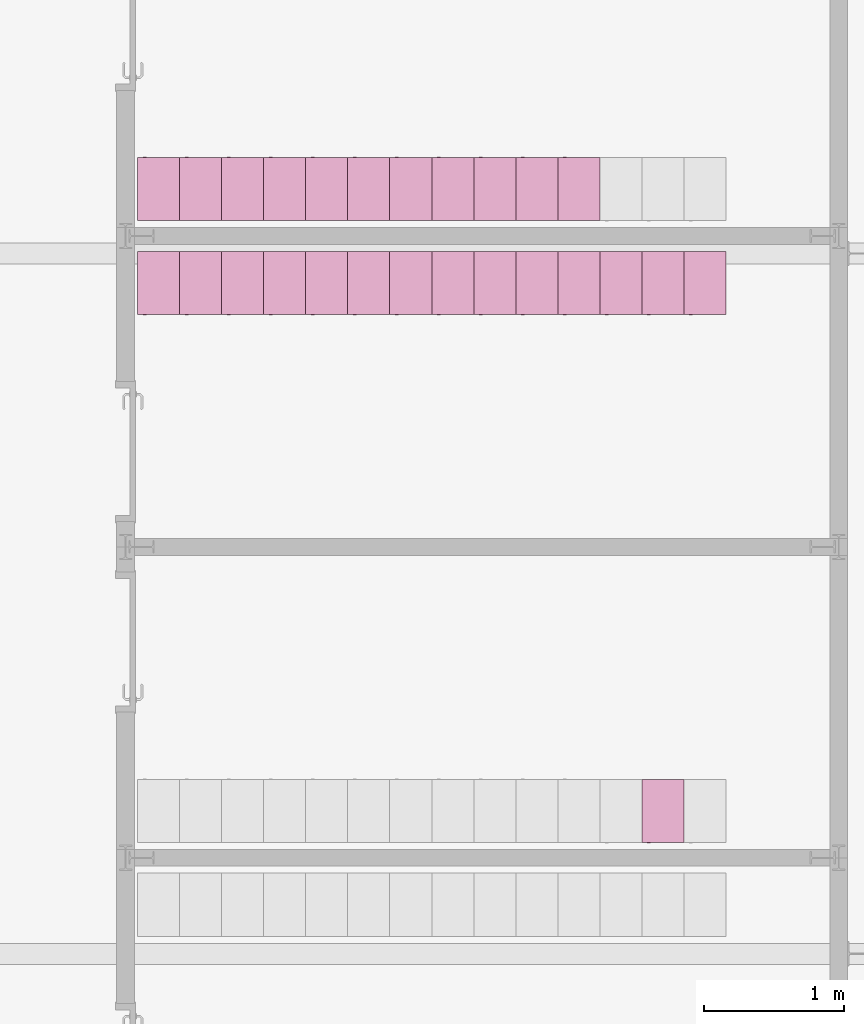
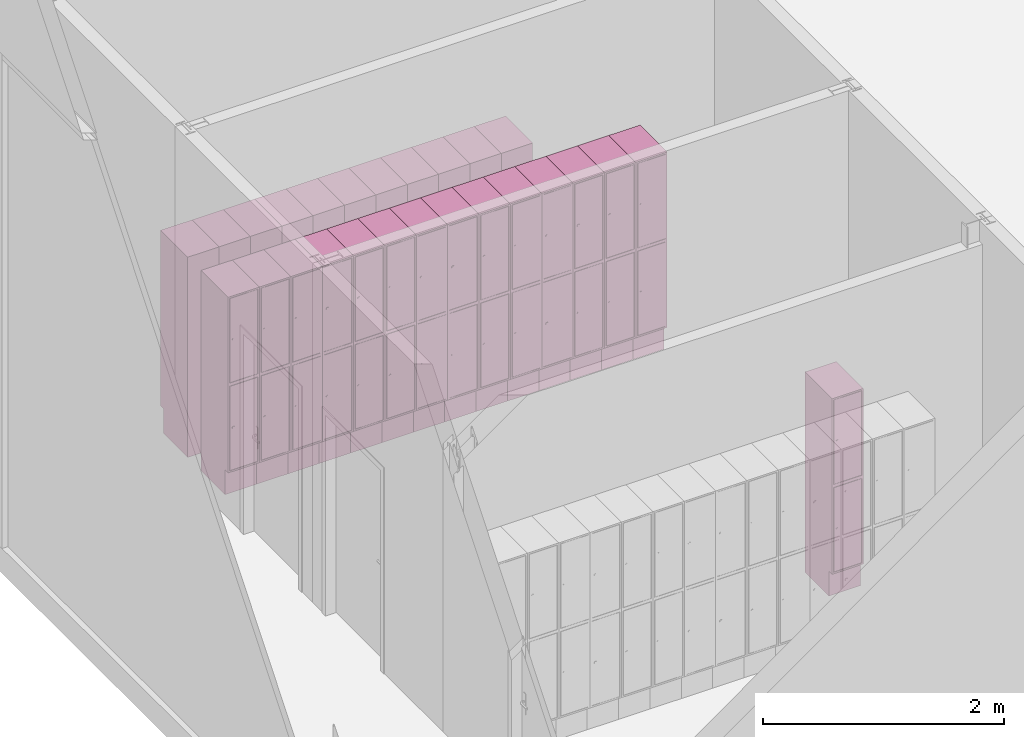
# One storey, part 120 of 137: 26 furnishings.
"""IFC2X3 building model written with IfcOpenShell, lengths in centimetres."""

from ifc_helpers import new_model, entity, si_unit, converted_unit, derived_unit, direction, frame, origin, place, context, subcontext, project, spatial, faceted_brep, source, transform, mapped, material, material_list, type_object, type_shapes, element, save


model = new_model("IFC2X3")

# Units and contexts
model_context = context("Model", 3, precision=0.001, world=origin(), true_north=direction((6.12303176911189e-17, 1.0)))
body_context = subcontext(model_context, "Body", "Model", "MODEL_VIEW")
ifc_project = project(units=[si_unit("LENGTHUNIT", "METRE", prefix="CENTI"), si_unit("AREAUNIT", "SQUARE_METRE"), si_unit("VOLUMEUNIT", "CUBIC_METRE"), converted_unit("PLANEANGLEUNIT", "DEGREE", entity("IfcRatioMeasure", 0.0174532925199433), si_unit("PLANEANGLEUNIT", "RADIAN"), dimensions=[0, 0, 0, 0, 0, 0, 0]), si_unit("MASSUNIT", "GRAM", prefix="KILO"), si_unit("TIMEUNIT", "SECOND"), si_unit("FREQUENCYUNIT", "HERTZ"), si_unit("THERMODYNAMICTEMPERATUREUNIT", "DEGREE_CELSIUS"), derived_unit("THERMALTRANSMITTANCEUNIT", [(si_unit("MASSUNIT", "GRAM", prefix="KILO"), 1), (si_unit("THERMODYNAMICTEMPERATUREUNIT", "KELVIN"), -1), (si_unit("TIMEUNIT", "SECOND"), -3)]), derived_unit("VOLUMETRICFLOWRATEUNIT", [(si_unit("LENGTHUNIT", "METRE"), 3), (si_unit("TIMEUNIT", "SECOND"), -1)]), si_unit("ELECTRICCURRENTUNIT", "AMPERE"), si_unit("ELECTRICVOLTAGEUNIT", "VOLT"), si_unit("POWERUNIT", "WATT"), si_unit("FORCEUNIT", "NEWTON", prefix="KILO"), si_unit("ILLUMINANCEUNIT", "LUX"), si_unit("LUMINOUSFLUXUNIT", "LUMEN"), si_unit("LUMINOUSINTENSITYUNIT", "CANDELA"), derived_unit("USERDEFINED", [(si_unit("MASSUNIT", "GRAM", prefix="KILO"), -1), (si_unit("LENGTHUNIT", "METRE"), -2), (si_unit("TIMEUNIT", "SECOND"), 3), (si_unit("LUMINOUSFLUXUNIT", "LUMEN"), 1)]), derived_unit("LINEARVELOCITYUNIT", [(si_unit("LENGTHUNIT", "METRE"), 1), (si_unit("TIMEUNIT", "SECOND"), -1)]), si_unit("PRESSUREUNIT", "PASCAL"), derived_unit("USERDEFINED", [(si_unit("LENGTHUNIT", "METRE"), -2), (si_unit("MASSUNIT", "GRAM", prefix="KILO"), 1), (si_unit("TIMEUNIT", "SECOND"), -2)])], contexts=[model_context])

# Site, building, storey, space
site_placement = place(None, frame((8.62739174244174, -249.285249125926, 0.0)))
site = spatial("IfcSite", under=ifc_project, at=site_placement, Name="Default", CompositionType="ELEMENT")
building_placement = place(site_placement, origin())
building = spatial("IfcBuilding", under=site, at=building_placement, CompositionType="ELEMENT")
storey_placement = place(building_placement, origin())
storey = spatial("IfcBuildingStorey", under=building, at=storey_placement, Name="RDC", CompositionType="ELEMENT", Elevation=-8.82465566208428e-11)
space_1_placement = place(storey_placement, origin())
space_1 = spatial("IfcSpace", under=storey, at=space_1_placement, Name="080", CompositionType="ELEMENT", InteriorOrExteriorSpace="INTERNAL")

# Furnishings
ifc_material_1 = material(Name="Peinture - Grise")
ifc_material_2 = material(Name="Peinture - Blanc")
ifc_material_list_1 = material_list([ifc_material_1, ifc_material_2])
ifc_material_list_2 = material_list([ifc_material_1, ifc_material_2])
furniture_type_1 = type_object("IfcFurnitureType", Name="Casiers 1x2", AssemblyPlace="NOTDEFINED", material=ifc_material_list_2)
shared_shape_1 = source(origin(), body_context, "Body", "Brep", [
    faceted_brep([(4.63888665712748, 0.299999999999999, 70.5824072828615), (4.96241046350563, 0.299999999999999, 70.6250000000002), (5.28593426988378, 0.299999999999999, 70.5824072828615), (5.58741046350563, 0.299999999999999, 70.4575317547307), (5.84629393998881, 0.299999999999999, 70.2588834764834), (6.04494221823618, 0.299999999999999, 70.0), (6.16981774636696, 0.299999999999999, 69.6985238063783), (6.21241046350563, 0.299999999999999, 69.3750000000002), (6.16981774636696, 0.299999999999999, 69.051476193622), (6.04494221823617, 0.299999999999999, 68.7500000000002), (5.84629393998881, 0.299999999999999, 68.491116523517), (5.58741046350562, 0.299999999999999, 68.2924682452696), (5.28593426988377, 0.299999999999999, 68.1675927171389), (4.96241046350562, 0.299999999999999, 68.1250000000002), (4.63888665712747, 0.299999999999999, 68.1675927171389), (4.33741046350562, 0.299999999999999, 68.2924682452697), (4.07852698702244, 0.299999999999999, 68.491116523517), (3.87987870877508, 0.299999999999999, 68.7500000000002), (3.75500318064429, 0.299999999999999, 69.0514761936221), (3.71241046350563, 0.299999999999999, 69.3750000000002), (3.75500318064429, 0.299999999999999, 69.6985238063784), (3.87987870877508, 0.299999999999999, 70.0), (4.07852698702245, 0.299999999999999, 70.2588834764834), (4.33741046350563, 0.299999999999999, 70.4575317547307), (5.28593426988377, 0.0, 68.1675927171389), (5.58741046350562, 0.0, 68.2924682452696), (5.84629393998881, 0.0, 68.491116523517), (6.04494221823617, 0.0, 68.7500000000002), (6.16981774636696, 0.0, 69.051476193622), (6.21241046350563, 0.0, 69.3750000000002), (6.16981774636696, 0.0, 69.6985238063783), (6.04494221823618, 0.0, 70.0), (5.84629393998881, 0.0, 70.2588834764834), (5.58741046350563, 0.0, 70.4575317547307), (5.28593426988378, 0.0, 70.5824072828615), (4.96241046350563, 0.0, 70.6250000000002), (4.63888665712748, 0.0, 70.5824072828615), (4.33741046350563, 0.0, 70.4575317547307), (4.07852698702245, 0.0, 70.2588834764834), (3.87987870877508, 0.0, 70.0), (3.75500318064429, 0.0, 69.6985238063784), (3.71241046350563, 0.0, 69.3750000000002), (3.75500318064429, 0.0, 69.0514761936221), (3.87987870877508, 0.0, 68.7500000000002), (4.07852698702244, 0.0, 68.491116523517), (4.33741046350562, 0.0, 68.2924682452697), (4.63888665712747, 0.0, 68.1675927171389), (4.96241046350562, 0.0, 68.1250000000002)], [[[0, 1, 2, 3, 4, 5, 6, 7, 8, 9, 10, 11, 12, 13, 14, 15, 16, 17, 18, 19, 20, 21, 22, 23]], [[24, 25, 26, 27, 28, 29, 30, 31, 32, 33, 34, 35, 36, 37, 38, 39, 40, 41, 42, 43, 44, 45, 46, 47]], [[18, 42, 41, 19]], [[17, 43, 42, 18]], [[45, 44, 16, 15]], [[17, 16, 44, 43]], [[46, 45, 15, 14]], [[47, 46, 14, 13]], [[12, 24, 47, 13]], [[11, 25, 24, 12]], [[27, 26, 10, 9]], [[11, 10, 26, 25]], [[28, 27, 9, 8]], [[29, 28, 8, 7]], [[6, 30, 29, 7]], [[5, 31, 30, 6]], [[33, 32, 4, 3]], [[5, 4, 32, 31]], [[34, 33, 3, 2]], [[35, 34, 2, 1]], [[0, 36, 35, 1]], [[23, 37, 36, 0]], [[39, 38, 22, 21]], [[23, 22, 38, 37]], [[40, 39, 21, 20]], [[41, 40, 20, 19]]]),
    faceted_brep([(5.58741046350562, 0.0, 157.042468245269), (5.84629393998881, 0.0, 157.241116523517), (6.04494221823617, 0.0, 157.5), (6.16981774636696, 0.0, 157.801476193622), (6.21241046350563, 0.0, 158.125), (6.16981774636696, 0.0, 158.448523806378), (6.04494221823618, 0.0, 158.75), (5.84629393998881, 0.0, 159.008883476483), (5.58741046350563, 0.0, 159.207531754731), (5.28593426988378, 0.0, 159.332407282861), (4.96241046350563, 0.0, 159.375), (4.63888665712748, 0.0, 159.332407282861), (4.33741046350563, 0.0, 159.207531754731), (4.07852698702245, 0.0, 159.008883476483), (3.87987870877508, 0.0, 158.75), (3.75500318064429, 0.0, 158.448523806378), (3.71241046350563, 0.0, 158.125), (3.75500318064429, 0.0, 157.801476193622), (3.87987870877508, 0.0, 157.5), (4.07852698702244, 0.0, 157.241116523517), (4.33741046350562, 0.0, 157.042468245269), (4.63888665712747, 0.0, 156.917592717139), (4.96241046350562, 0.0, 156.875), (5.28593426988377, 0.0, 156.917592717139), (5.58741046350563, 0.299999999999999, 159.207531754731), (5.84629393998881, 0.299999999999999, 159.008883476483), (6.04494221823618, 0.299999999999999, 158.75), (6.16981774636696, 0.299999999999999, 158.448523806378), (6.21241046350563, 0.299999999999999, 158.125), (6.16981774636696, 0.299999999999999, 157.801476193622), (6.04494221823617, 0.299999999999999, 157.5), (5.84629393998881, 0.299999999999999, 157.241116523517), (5.58741046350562, 0.299999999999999, 157.042468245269), (5.28593426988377, 0.299999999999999, 156.917592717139), (4.96241046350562, 0.299999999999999, 156.875), (4.63888665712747, 0.299999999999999, 156.917592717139), (4.33741046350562, 0.299999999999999, 157.042468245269), (4.07852698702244, 0.299999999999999, 157.241116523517), (3.87987870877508, 0.299999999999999, 157.5), (3.75500318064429, 0.299999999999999, 157.801476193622), (3.71241046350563, 0.299999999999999, 158.125), (3.75500318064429, 0.299999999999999, 158.448523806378), (3.87987870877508, 0.299999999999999, 158.75), (4.07852698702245, 0.299999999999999, 159.008883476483), (4.33741046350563, 0.299999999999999, 159.207531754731), (4.63888665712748, 0.299999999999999, 159.332407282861), (4.96241046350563, 0.299999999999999, 159.375), (5.28593426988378, 0.299999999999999, 159.332407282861)], [[[0, 1, 2, 3, 4, 5, 6, 7, 8, 9, 10, 11, 12, 13, 14, 15, 16, 17, 18, 19, 20, 21, 22, 23]], [[24, 25, 26, 27, 28, 29, 30, 31, 32, 33, 34, 35, 36, 37, 38, 39, 40, 41, 42, 43, 44, 45, 46, 47]], [[39, 17, 16, 40]], [[38, 18, 17, 39]], [[20, 19, 37, 36]], [[38, 37, 19, 18]], [[21, 20, 36, 35]], [[22, 21, 35, 34]], [[33, 23, 22, 34]], [[32, 0, 23, 33]], [[2, 1, 31, 30]], [[32, 31, 1, 0]], [[3, 2, 30, 29]], [[4, 3, 29, 28]], [[27, 5, 4, 28]], [[26, 6, 5, 27]], [[8, 7, 25, 24]], [[26, 25, 7, 6]], [[9, 8, 24, 47]], [[10, 9, 47, 46]], [[45, 11, 10, 46]], [[44, 12, 11, 45]], [[14, 13, 43, 42]], [[44, 43, 13, 12]], [[15, 14, 42, 41]], [[16, 15, 41, 40]]]),
    faceted_brep([(30.0, 45.3, 25.0), (0.0, 45.3, 25.0), (0.0, 5.3, 25.0), (30.0, 5.3, 25.0), (30.0, 45.3, 0.0), (30.0, 5.3, 0.0), (0.0, 5.3, 0.0), (0.0, 45.3, 0.0)], [[[0, 1, 2, 3]], [[4, 5, 6, 7]], [[1, 0, 4, 7]], [[2, 1, 7, 6]], [[3, 2, 6, 5]], [[0, 3, 5, 4]]]),
    faceted_brep([(28.1999999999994, 0.300000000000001, 200.7), (1.79999999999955, 0.300000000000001, 200.7), (1.79999999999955, 0.300000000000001, 115.55), (28.1999999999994, 0.300000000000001, 115.55), (28.1999999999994, 1.79999999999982, 200.7), (28.1999999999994, 1.79999999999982, 115.55), (1.79999999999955, 1.79999999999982, 115.55), (1.79999999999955, 1.79999999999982, 200.7)], [[[0, 1, 2, 3]], [[4, 5, 6, 7]], [[1, 0, 4, 7]], [[2, 1, 7, 6]], [[3, 2, 6, 5]], [[0, 3, 5, 4]]]),
    faceted_brep([(1.79999999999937, 0.300000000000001, 111.95), (28.1999999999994, 0.300000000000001, 111.95), (28.1999999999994, 1.79999999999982, 111.95), (1.79999999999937, 1.79999999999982, 111.95), (1.79999999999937, 0.300000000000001, 26.8000000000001), (1.79999999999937, 1.79999999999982, 26.8000000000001), (28.1999999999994, 0.300000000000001, 26.8000000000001), (28.1999999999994, 1.79999999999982, 26.8000000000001)], [[[0, 1, 2, 3]], [[4, 0, 3, 5]], [[6, 4, 5, 7]], [[1, 6, 7, 2]], [[2, 7, 5, 3]], [[1, 0, 4, 6]]]),
    faceted_brep([(30.0, 0.300000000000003, 25.0), (30.0, 45.3000000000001, 25.0), (30.0, 45.3000000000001, 202.5), (30.0, 0.300000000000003, 202.5), (0.0, 0.300000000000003, 25.0), (0.0, 0.300000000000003, 202.5), (0.0, 45.3000000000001, 202.5), (0.0, 45.3000000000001, 25.0), (28.4999999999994, 0.300000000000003, 26.5), (1.49999999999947, 0.300000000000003, 26.5), (1.49999999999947, 0.300000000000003, 112.25), (28.4999999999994, 0.300000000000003, 112.25), (28.4999999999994, 0.300000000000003, 115.25), (1.49999999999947, 0.300000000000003, 115.25), (1.49999999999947, 0.300000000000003, 201.0), (28.4999999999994, 0.300000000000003, 201.0), (28.4999999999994, 43.7999999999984, 26.5), (28.4999999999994, 43.7999999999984, 112.25), (1.49999999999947, 43.7999999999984, 112.25), (1.49999999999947, 43.7999999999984, 26.5), (28.4999999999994, 43.7999999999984, 115.25), (1.49999999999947, 43.7999999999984, 115.25), (1.49999999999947, 43.7999999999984, 201.0), (28.4999999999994, 43.7999999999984, 201.0)], [[[0, 1, 2, 3]], [[4, 5, 6, 7]], [[1, 0, 4, 7]], [[2, 1, 7, 6]], [[3, 2, 6, 5]], [[0, 3, 5, 4], [8, 9, 10, 11], [12, 13, 14, 15]], [[16, 17, 18, 19]], [[16, 19, 9, 8]], [[19, 18, 10, 9]], [[18, 17, 11, 10]], [[17, 16, 8, 11]], [[20, 21, 13, 12]], [[21, 22, 14, 13]], [[22, 23, 15, 14]], [[23, 20, 12, 15]], [[20, 23, 22, 21]]]),
])
type_shapes(furniture_type_1, [shared_shape_1])
furnishing_1_placement = place(space_1_placement, frame((1188.90482780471, 2318.18020806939, 0.0)))
element("IfcFurnishingElement", 1, at=furnishing_1_placement, inside=space_1, type_object=furniture_type_1, material=ifc_material_list_1, Name="Casiers 1x2:Casiers 1x2", ObjectType="Casiers 1x2", context=body_context, shape_type="MappedRepresentation", body=[
    mapped(shared_shape_1, transform((0.0, 0.0, 0.0), scale=1.0)),
])
ifc_material_list_3 = material_list([ifc_material_1, ifc_material_2])
furnishing_2_placement = place(space_1_placement, frame((1158.90482780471, 2318.18020806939, 0.0)))
element("IfcFurnishingElement", 2, at=furnishing_2_placement, inside=space_1, type_object=furniture_type_1, material=ifc_material_list_3, Name="Casiers 1x2:Casiers 1x2", ObjectType="Casiers 1x2", context=body_context, shape_type="MappedRepresentation", body=[
    mapped(shared_shape_1, transform((0.0, 0.0, 0.0), scale=1.0)),
])
ifc_material_list_4 = material_list([ifc_material_1, ifc_material_2])
furnishing_3_placement = place(space_1_placement, frame((1128.90482780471, 2318.18020806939, 0.0)))
element("IfcFurnishingElement", 3, at=furnishing_3_placement, inside=space_1, type_object=furniture_type_1, material=ifc_material_list_4, Name="Casiers 1x2:Casiers 1x2", ObjectType="Casiers 1x2", context=body_context, shape_type="MappedRepresentation", body=[
    mapped(shared_shape_1, transform((0.0, 0.0, 0.0), scale=1.0)),
])
ifc_material_list_5 = material_list([ifc_material_1, ifc_material_2])
furnishing_4_placement = place(space_1_placement, frame((1098.90482780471, 2318.18020806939, 0.0)))
element("IfcFurnishingElement", 4, at=furnishing_4_placement, inside=space_1, type_object=furniture_type_1, material=ifc_material_list_5, Name="Casiers 1x2:Casiers 1x2", ObjectType="Casiers 1x2", context=body_context, shape_type="MappedRepresentation", body=[
    mapped(shared_shape_1, transform((0.0, 0.0, 0.0), scale=1.0)),
])
ifc_material_list_6 = material_list([ifc_material_1, ifc_material_2])
furnishing_5_placement = place(space_1_placement, frame((1068.90482780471, 2318.18020806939, 0.0)))
element("IfcFurnishingElement", 5, at=furnishing_5_placement, inside=space_1, type_object=furniture_type_1, material=ifc_material_list_6, Name="Casiers 1x2:Casiers 1x2", ObjectType="Casiers 1x2", context=body_context, shape_type="MappedRepresentation", body=[
    mapped(shared_shape_1, transform((0.0, 0.0, 0.0), scale=1.0)),
])
ifc_material_list_7 = material_list([ifc_material_1, ifc_material_2])
furnishing_6_placement = place(space_1_placement, frame((1038.90482780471, 2318.18020806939, 0.0)))
element("IfcFurnishingElement", 6, at=furnishing_6_placement, inside=space_1, type_object=furniture_type_1, material=ifc_material_list_7, Name="Casiers 1x2:Casiers 1x2", ObjectType="Casiers 1x2", context=body_context, shape_type="MappedRepresentation", body=[
    mapped(shared_shape_1, transform((0.0, 0.0, 0.0), scale=1.0)),
])
ifc_material_list_8 = material_list([ifc_material_1, ifc_material_2])
furnishing_7_placement = place(space_1_placement, frame((1338.90482780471, 2318.18020806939, 0.0)))
element("IfcFurnishingElement", 7, at=furnishing_7_placement, inside=space_1, type_object=furniture_type_1, material=ifc_material_list_8, Name="Casiers 1x2:Casiers 1x2", ObjectType="Casiers 1x2", context=body_context, shape_type="MappedRepresentation", body=[
    mapped(shared_shape_1, transform((0.0, 0.0, 0.0), scale=1.0)),
])
ifc_material_list_9 = material_list([ifc_material_1, ifc_material_2])
furnishing_8_placement = place(space_1_placement, frame((1308.90482780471, 2318.18020806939, 0.0)))
element("IfcFurnishingElement", 8, at=furnishing_8_placement, inside=space_1, type_object=furniture_type_1, material=ifc_material_list_9, Name="Casiers 1x2:Casiers 1x2", ObjectType="Casiers 1x2", context=body_context, shape_type="MappedRepresentation", body=[
    mapped(shared_shape_1, transform((0.0, 0.0, 0.0), scale=1.0)),
])
ifc_material_list_10 = material_list([ifc_material_1, ifc_material_2])
furnishing_9_placement = place(space_1_placement, frame((1278.90482780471, 2318.18020806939, 0.0)))
element("IfcFurnishingElement", 9, at=furnishing_9_placement, inside=space_1, type_object=furniture_type_1, material=ifc_material_list_10, Name="Casiers 1x2:Casiers 1x2", ObjectType="Casiers 1x2", context=body_context, shape_type="MappedRepresentation", body=[
    mapped(shared_shape_1, transform((0.0, 0.0, 0.0), scale=1.0)),
])
ifc_material_list_11 = material_list([ifc_material_1, ifc_material_2])
furnishing_10_placement = place(space_1_placement, frame((1248.90482780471, 2318.18020806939, 0.0)))
element("IfcFurnishingElement", 10, at=furnishing_10_placement, inside=space_1, type_object=furniture_type_1, material=ifc_material_list_11, Name="Casiers 1x2:Casiers 1x2", ObjectType="Casiers 1x2", context=body_context, shape_type="MappedRepresentation", body=[
    mapped(shared_shape_1, transform((0.0, 0.0, 0.0), scale=1.0)),
])
ifc_material_list_12 = material_list([ifc_material_1, ifc_material_2])
furnishing_11_placement = place(space_1_placement, frame((1218.90482780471, 2318.18020806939, 0.0)))
element("IfcFurnishingElement", 11, at=furnishing_11_placement, inside=space_1, type_object=furniture_type_1, material=ifc_material_list_12, Name="Casiers 1x2:Casiers 1x2", ObjectType="Casiers 1x2", context=body_context, shape_type="MappedRepresentation", body=[
    mapped(shared_shape_1, transform((0.0, 0.0, 0.0), scale=1.0)),
])
ifc_material_list_13 = material_list([ifc_material_1, ifc_material_2])
furnishing_12_placement = place(space_1_placement, frame((1428.90482780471, 2318.18020806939, 0.0)))
element("IfcFurnishingElement", 12, at=furnishing_12_placement, inside=space_1, type_object=furniture_type_1, material=ifc_material_list_13, Name="Casiers 1x2:Casiers 1x2", ObjectType="Casiers 1x2", context=body_context, shape_type="MappedRepresentation", body=[
    mapped(shared_shape_1, transform((0.0, 0.0, 0.0), scale=1.0)),
])
ifc_material_list_14 = material_list([ifc_material_1, ifc_material_2])
furnishing_13_placement = place(space_1_placement, frame((1398.90482780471, 2318.18020806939, 0.0)))
element("IfcFurnishingElement", 13, at=furnishing_13_placement, inside=space_1, type_object=furniture_type_1, material=ifc_material_list_14, Name="Casiers 1x2:Casiers 1x2", ObjectType="Casiers 1x2", context=body_context, shape_type="MappedRepresentation", body=[
    mapped(shared_shape_1, transform((0.0, 0.0, 0.0), scale=1.0)),
])
ifc_material_list_15 = material_list([ifc_material_1, ifc_material_2])
furnishing_14_placement = place(space_1_placement, frame((1368.90482780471, 2318.18020806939, 0.0)))
element("IfcFurnishingElement", 14, at=furnishing_14_placement, inside=space_1, type_object=furniture_type_1, material=ifc_material_list_15, Name="Casiers 1x2:Casiers 1x2", ObjectType="Casiers 1x2", context=body_context, shape_type="MappedRepresentation", body=[
    mapped(shared_shape_1, transform((0.0, 0.0, 0.0), scale=1.0)),
])

# Space
space_2_placement = place(storey_placement, origin())
space_2 = spatial("IfcSpace", under=storey, at=space_2_placement, Name="079", CompositionType="ELEMENT", InteriorOrExteriorSpace="INTERNAL")

# Furnishing
ifc_material_list_16 = material_list([ifc_material_1, ifc_material_2])
furnishing_15_placement = place(space_2_placement, frame((1398.90482780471, 1941.18020806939, 0.0)))
element("IfcFurnishingElement", 15, at=furnishing_15_placement, inside=space_2, type_object=furniture_type_1, material=ifc_material_list_16, Name="Casiers 1x2:Casiers 1x2", ObjectType="Casiers 1x2", context=body_context, shape_type="MappedRepresentation", body=[
    mapped(shared_shape_1, transform((0.0, 0.0, 0.0), scale=1.0)),
])

# Space
space_3_placement = place(storey_placement, origin())
space_3 = spatial("IfcSpace", under=storey, at=space_3_placement, Name="081", CompositionType="ELEMENT", InteriorOrExteriorSpace="INTERNAL")

# Furnishings
ifc_material_list_17 = material_list([ifc_material_1, ifc_material_2])
ifc_material_list_18 = material_list([ifc_material_1, ifc_material_2])
furniture_type_2 = type_object("IfcFurnitureType", Name="Casiers 1x2", AssemblyPlace="NOTDEFINED", material=ifc_material_list_18)
shared_shape_2 = source(origin(), body_context, "Body", "Brep", [
    faceted_brep([(5.28593426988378, 45.0, 70.5824072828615), (4.96241046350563, 45.0, 70.6250000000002), (4.63888665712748, 45.0, 70.5824072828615), (4.33741046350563, 45.0, 70.4575317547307), (4.07852698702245, 45.0, 70.2588834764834), (3.87987870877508, 45.0, 70.0), (3.75500318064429, 45.0, 69.6985238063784), (3.71241046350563, 45.0, 69.3750000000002), (3.75500318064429, 45.0, 69.0514761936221), (3.87987870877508, 45.0, 68.7500000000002), (4.07852698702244, 45.0, 68.491116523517), (4.33741046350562, 45.0, 68.2924682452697), (4.63888665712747, 45.0, 68.1675927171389), (4.96241046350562, 45.0, 68.1250000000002), (5.28593426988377, 45.0, 68.1675927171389), (5.58741046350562, 45.0, 68.2924682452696), (5.84629393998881, 45.0, 68.491116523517), (6.04494221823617, 45.0, 68.7500000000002), (6.16981774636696, 45.0, 69.051476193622), (6.21241046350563, 45.0, 69.3750000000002), (6.16981774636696, 45.0, 69.6985238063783), (6.04494221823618, 45.0, 70.0), (5.84629393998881, 45.0, 70.2588834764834), (5.58741046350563, 45.0, 70.4575317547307), (5.84629393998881, 45.3000000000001, 68.491116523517), (5.58741046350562, 45.3000000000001, 68.2924682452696), (5.28593426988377, 45.3000000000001, 68.1675927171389), (4.96241046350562, 45.3000000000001, 68.1250000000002), (4.63888665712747, 45.3000000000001, 68.1675927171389), (4.33741046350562, 45.3000000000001, 68.2924682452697), (4.07852698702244, 45.3000000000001, 68.491116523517), (3.87987870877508, 45.3000000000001, 68.7500000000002), (3.75500318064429, 45.3000000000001, 69.0514761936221), (3.71241046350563, 45.3000000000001, 69.3750000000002), (3.75500318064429, 45.3000000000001, 69.6985238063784), (3.87987870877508, 45.3000000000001, 70.0), (4.07852698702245, 45.3000000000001, 70.2588834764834), (4.33741046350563, 45.3000000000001, 70.4575317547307), (4.63888665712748, 45.3000000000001, 70.5824072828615), (4.96241046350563, 45.3000000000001, 70.6250000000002), (5.28593426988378, 45.3000000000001, 70.5824072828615), (5.58741046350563, 45.3000000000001, 70.4575317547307), (5.84629393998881, 45.3000000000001, 70.2588834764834), (6.04494221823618, 45.3000000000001, 70.0), (6.16981774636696, 45.3000000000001, 69.6985238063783), (6.21241046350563, 45.3000000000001, 69.3750000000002), (6.16981774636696, 45.3000000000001, 69.051476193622), (6.04494221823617, 45.3000000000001, 68.7500000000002)], [[[0, 1, 2, 3, 4, 5, 6, 7, 8, 9, 10, 11, 12, 13, 14, 15, 16, 17, 18, 19, 20, 21, 22, 23]], [[24, 25, 26, 27, 28, 29, 30, 31, 32, 33, 34, 35, 36, 37, 38, 39, 40, 41, 42, 43, 44, 45, 46, 47]], [[7, 33, 32, 8]], [[8, 32, 31, 9]], [[11, 10, 30, 29]], [[30, 10, 9, 31]], [[12, 11, 29, 28]], [[12, 28, 27, 13]], [[13, 27, 26, 14]], [[14, 26, 25, 15]], [[17, 16, 24, 47]], [[24, 16, 15, 25]], [[18, 17, 47, 46]], [[18, 46, 45, 19]], [[19, 45, 44, 20]], [[20, 44, 43, 21]], [[23, 22, 42, 41]], [[42, 22, 21, 43]], [[0, 23, 41, 40]], [[0, 40, 39, 1]], [[1, 39, 38, 2]], [[2, 38, 37, 3]], [[5, 4, 36, 35]], [[36, 4, 3, 37]], [[6, 5, 35, 34]], [[6, 34, 33, 7]]]),
    faceted_brep([(5.28593426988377, 45.3000000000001, 156.917592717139), (4.96241046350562, 45.3000000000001, 156.875), (4.63888665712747, 45.3000000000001, 156.917592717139), (4.33741046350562, 45.3000000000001, 157.042468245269), (4.07852698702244, 45.3000000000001, 157.241116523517), (3.87987870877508, 45.3000000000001, 157.5), (3.75500318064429, 45.3000000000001, 157.801476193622), (3.71241046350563, 45.3000000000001, 158.125), (3.75500318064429, 45.3000000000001, 158.448523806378), (3.87987870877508, 45.3000000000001, 158.75), (4.07852698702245, 45.3000000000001, 159.008883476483), (4.33741046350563, 45.3000000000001, 159.207531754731), (4.63888665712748, 45.3000000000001, 159.332407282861), (4.96241046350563, 45.3000000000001, 159.375), (5.28593426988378, 45.3000000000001, 159.332407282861), (5.58741046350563, 45.3000000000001, 159.207531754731), (5.84629393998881, 45.3000000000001, 159.008883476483), (6.04494221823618, 45.3000000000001, 158.75), (6.16981774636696, 45.3000000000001, 158.448523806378), (6.21241046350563, 45.3000000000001, 158.125), (6.16981774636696, 45.3000000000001, 157.801476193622), (6.04494221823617, 45.3000000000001, 157.5), (5.84629393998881, 45.3000000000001, 157.241116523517), (5.58741046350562, 45.3000000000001, 157.042468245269), (5.28593426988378, 45.0, 159.332407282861), (4.96241046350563, 45.0, 159.375), (4.63888665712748, 45.0, 159.332407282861), (4.33741046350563, 45.0, 159.207531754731), (4.07852698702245, 45.0, 159.008883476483), (3.87987870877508, 45.0, 158.75), (3.75500318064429, 45.0, 158.448523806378), (3.71241046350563, 45.0, 158.125), (3.75500318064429, 45.0, 157.801476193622), (3.87987870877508, 45.0, 157.5), (4.07852698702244, 45.0, 157.241116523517), (4.33741046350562, 45.0, 157.042468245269), (4.63888665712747, 45.0, 156.917592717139), (4.96241046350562, 45.0, 156.875), (5.28593426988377, 45.0, 156.917592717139), (5.58741046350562, 45.0, 157.042468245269), (5.84629393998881, 45.0, 157.241116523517), (6.04494221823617, 45.0, 157.5), (6.16981774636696, 45.0, 157.801476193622), (6.21241046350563, 45.0, 158.125), (6.16981774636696, 45.0, 158.448523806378), (6.04494221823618, 45.0, 158.75), (5.84629393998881, 45.0, 159.008883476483), (5.58741046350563, 45.0, 159.207531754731)], [[[0, 1, 2, 3, 4, 5, 6, 7, 8, 9, 10, 11, 12, 13, 14, 15, 16, 17, 18, 19, 20, 21, 22, 23]], [[24, 25, 26, 27, 28, 29, 30, 31, 32, 33, 34, 35, 36, 37, 38, 39, 40, 41, 42, 43, 44, 45, 46, 47]], [[31, 7, 6, 32]], [[32, 6, 5, 33]], [[35, 34, 4, 3]], [[4, 34, 33, 5]], [[36, 35, 3, 2]], [[36, 2, 1, 37]], [[37, 1, 0, 38]], [[38, 0, 23, 39]], [[41, 40, 22, 21]], [[22, 40, 39, 23]], [[42, 41, 21, 20]], [[42, 20, 19, 43]], [[43, 19, 18, 44]], [[44, 18, 17, 45]], [[47, 46, 16, 15]], [[16, 46, 45, 17]], [[24, 47, 15, 14]], [[24, 14, 13, 25]], [[25, 13, 12, 26]], [[26, 12, 11, 27]], [[29, 28, 10, 9]], [[10, 28, 27, 11]], [[30, 29, 9, 8]], [[30, 8, 7, 31]]]),
    faceted_brep([(30.0, 0.0, 25.0), (30.0, 40.0, 25.0), (0.0, 40.0, 25.0), (0.0, 0.0, 25.0), (30.0, 0.0, 0.0), (0.0, 0.0, 0.0), (0.0, 40.0, 0.0), (30.0, 40.0, 0.0)], [[[0, 1, 2, 3]], [[4, 5, 6, 7]], [[3, 5, 4, 0]], [[2, 6, 5, 3]], [[1, 7, 6, 2]], [[0, 4, 7, 1]]]),
    faceted_brep([(28.1999999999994, 45.0, 200.7), (28.1999999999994, 45.0, 115.55), (1.79999999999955, 45.0, 115.55), (1.79999999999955, 45.0, 200.7), (28.1999999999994, 43.5000000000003, 200.7), (1.79999999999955, 43.5000000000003, 200.7), (1.79999999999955, 43.5000000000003, 115.55), (28.1999999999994, 43.5000000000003, 115.55)], [[[0, 1, 2, 3]], [[4, 5, 6, 7]], [[3, 5, 4, 0]], [[2, 6, 5, 3]], [[1, 7, 6, 2]], [[0, 4, 7, 1]]]),
    faceted_brep([(1.79999999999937, 45.0, 111.95), (1.79999999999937, 43.5000000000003, 111.95), (28.1999999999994, 43.5000000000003, 111.95), (28.1999999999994, 45.0, 111.95), (1.79999999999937, 45.0, 26.8000000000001), (1.79999999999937, 43.5000000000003, 26.8000000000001), (28.1999999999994, 45.0, 26.8000000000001), (28.1999999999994, 43.5000000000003, 26.8000000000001)], [[[0, 1, 2, 3]], [[4, 5, 1, 0]], [[6, 7, 5, 4]], [[3, 2, 7, 6]], [[2, 1, 5, 7]], [[3, 6, 4, 0]]]),
    faceted_brep([(30.0, 45.0, 25.0), (30.0, 45.0, 202.5), (30.0, 0.0, 202.5), (30.0, 0.0, 25.0), (0.0, 45.0, 25.0), (0.0, 0.0, 25.0), (0.0, 0.0, 202.5), (0.0, 45.0, 202.5), (28.4999999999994, 45.0, 26.5), (28.4999999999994, 45.0, 112.25), (1.49999999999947, 45.0, 112.25), (1.49999999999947, 45.0, 26.5), (28.4999999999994, 45.0, 115.25), (28.4999999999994, 45.0, 201.0), (1.49999999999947, 45.0, 201.0), (1.49999999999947, 45.0, 115.25), (28.4999999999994, 1.50000000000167, 26.5), (1.49999999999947, 1.50000000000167, 26.5), (1.49999999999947, 1.50000000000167, 112.25), (28.4999999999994, 1.50000000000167, 112.25), (28.4999999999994, 1.50000000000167, 115.25), (1.49999999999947, 1.50000000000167, 115.25), (1.49999999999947, 1.50000000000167, 201.0), (28.4999999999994, 1.50000000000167, 201.0)], [[[0, 1, 2, 3]], [[4, 5, 6, 7]], [[3, 5, 4, 0]], [[2, 6, 5, 3]], [[1, 7, 6, 2]], [[0, 4, 7, 1], [8, 9, 10, 11], [12, 13, 14, 15]], [[16, 17, 18, 19]], [[16, 8, 11, 17]], [[17, 11, 10, 18]], [[18, 10, 9, 19]], [[19, 9, 8, 16]], [[20, 12, 15, 21]], [[21, 15, 14, 22]], [[22, 14, 13, 23]], [[23, 13, 12, 20]], [[20, 21, 22, 23]]]),
])
type_shapes(furniture_type_2, [shared_shape_2])
furnishing_16_placement = place(space_3_placement, frame((1188.90482780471, 2385.48020806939, 0.0)))
element("IfcFurnishingElement", 16, at=furnishing_16_placement, inside=space_3, type_object=furniture_type_2, material=ifc_material_list_17, Name="Casiers 1x2:Casiers 1x2", ObjectType="Casiers 1x2", context=body_context, shape_type="MappedRepresentation", body=[
    mapped(shared_shape_2, transform((0.0, 0.0, 0.0), scale=1.0)),
])
ifc_material_list_19 = material_list([ifc_material_1, ifc_material_2])
furnishing_17_placement = place(space_3_placement, frame((1158.90482780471, 2385.48020806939, 0.0)))
element("IfcFurnishingElement", 17, at=furnishing_17_placement, inside=space_3, type_object=furniture_type_2, material=ifc_material_list_19, Name="Casiers 1x2:Casiers 1x2", ObjectType="Casiers 1x2", context=body_context, shape_type="MappedRepresentation", body=[
    mapped(shared_shape_2, transform((0.0, 0.0, 0.0), scale=1.0)),
])
ifc_material_list_20 = material_list([ifc_material_1, ifc_material_2])
furnishing_18_placement = place(space_3_placement, frame((1128.90482780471, 2385.48020806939, 0.0)))
element("IfcFurnishingElement", 18, at=furnishing_18_placement, inside=space_3, type_object=furniture_type_2, material=ifc_material_list_20, Name="Casiers 1x2:Casiers 1x2", ObjectType="Casiers 1x2", context=body_context, shape_type="MappedRepresentation", body=[
    mapped(shared_shape_2, transform((0.0, 0.0, 0.0), scale=1.0)),
])
ifc_material_list_21 = material_list([ifc_material_1, ifc_material_2])
furnishing_19_placement = place(space_3_placement, frame((1098.90482780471, 2385.48020806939, 0.0)))
element("IfcFurnishingElement", 19, at=furnishing_19_placement, inside=space_3, type_object=furniture_type_2, material=ifc_material_list_21, Name="Casiers 1x2:Casiers 1x2", ObjectType="Casiers 1x2", context=body_context, shape_type="MappedRepresentation", body=[
    mapped(shared_shape_2, transform((0.0, 0.0, 0.0), scale=1.0)),
])
ifc_material_list_22 = material_list([ifc_material_1, ifc_material_2])
furnishing_20_placement = place(space_3_placement, frame((1068.90482780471, 2385.48020806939, 0.0)))
element("IfcFurnishingElement", 20, at=furnishing_20_placement, inside=space_3, type_object=furniture_type_2, material=ifc_material_list_22, Name="Casiers 1x2:Casiers 1x2", ObjectType="Casiers 1x2", context=body_context, shape_type="MappedRepresentation", body=[
    mapped(shared_shape_2, transform((0.0, 0.0, 0.0), scale=1.0)),
])
ifc_material_list_23 = material_list([ifc_material_1, ifc_material_2])
furnishing_21_placement = place(space_3_placement, frame((1038.90482780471, 2385.48020806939, 0.0)))
element("IfcFurnishingElement", 21, at=furnishing_21_placement, inside=space_3, type_object=furniture_type_2, material=ifc_material_list_23, Name="Casiers 1x2:Casiers 1x2", ObjectType="Casiers 1x2", context=body_context, shape_type="MappedRepresentation", body=[
    mapped(shared_shape_2, transform((0.0, 0.0, 0.0), scale=1.0)),
])
ifc_material_list_24 = material_list([ifc_material_1, ifc_material_2])
furnishing_22_placement = place(space_3_placement, frame((1338.90482780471, 2385.48020806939, 0.0)))
element("IfcFurnishingElement", 22, at=furnishing_22_placement, inside=space_3, type_object=furniture_type_2, material=ifc_material_list_24, Name="Casiers 1x2:Casiers 1x2", ObjectType="Casiers 1x2", context=body_context, shape_type="MappedRepresentation", body=[
    mapped(shared_shape_2, transform((0.0, 0.0, 0.0), scale=1.0)),
])
ifc_material_list_25 = material_list([ifc_material_1, ifc_material_2])
furnishing_23_placement = place(space_3_placement, frame((1308.90482780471, 2385.48020806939, 0.0)))
element("IfcFurnishingElement", 23, at=furnishing_23_placement, inside=space_3, type_object=furniture_type_2, material=ifc_material_list_25, Name="Casiers 1x2:Casiers 1x2", ObjectType="Casiers 1x2", context=body_context, shape_type="MappedRepresentation", body=[
    mapped(shared_shape_2, transform((0.0, 0.0, 0.0), scale=1.0)),
])
ifc_material_list_26 = material_list([ifc_material_1, ifc_material_2])
furnishing_24_placement = place(space_3_placement, frame((1278.90482780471, 2385.48020806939, 0.0)))
element("IfcFurnishingElement", 24, at=furnishing_24_placement, inside=space_3, type_object=furniture_type_2, material=ifc_material_list_26, Name="Casiers 1x2:Casiers 1x2", ObjectType="Casiers 1x2", context=body_context, shape_type="MappedRepresentation", body=[
    mapped(shared_shape_2, transform((0.0, 0.0, 0.0), scale=1.0)),
])
ifc_material_list_27 = material_list([ifc_material_1, ifc_material_2])
furnishing_25_placement = place(space_3_placement, frame((1248.90482780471, 2385.48020806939, 0.0)))
element("IfcFurnishingElement", 25, at=furnishing_25_placement, inside=space_3, type_object=furniture_type_2, material=ifc_material_list_27, Name="Casiers 1x2:Casiers 1x2", ObjectType="Casiers 1x2", context=body_context, shape_type="MappedRepresentation", body=[
    mapped(shared_shape_2, transform((0.0, 0.0, 0.0), scale=1.0)),
])
ifc_material_list_28 = material_list([ifc_material_1, ifc_material_2])
furnishing_26_placement = place(space_3_placement, frame((1218.90482780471, 2385.48020806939, 0.0)))
element("IfcFurnishingElement", 26, at=furnishing_26_placement, inside=space_3, type_object=furniture_type_2, material=ifc_material_list_28, Name="Casiers 1x2:Casiers 1x2", ObjectType="Casiers 1x2", context=body_context, shape_type="MappedRepresentation", body=[
    mapped(shared_shape_2, transform((0.0, 0.0, 0.0), scale=1.0)),
])

save(model, "model.ifc")
